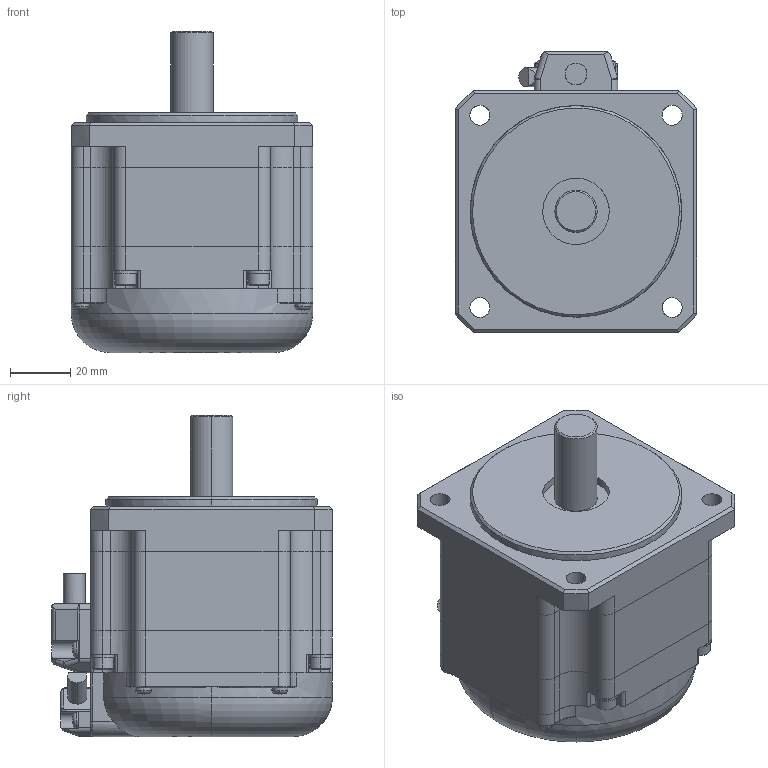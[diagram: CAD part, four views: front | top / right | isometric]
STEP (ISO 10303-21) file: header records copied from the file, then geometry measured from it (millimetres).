
FILE_DESCRIPTION (( 'STEP AP203' ), '1' );
FILE_NAME ('TS4612.STEP', '2010-08-06T14:22:12', ( 'render' ), ( '' ), 'SwSTEP 2.0', 'SolidWorks 2009', '' );
FILE_SCHEMA (( 'CONFIG_CONTROL_DESIGN' ));
Length unit declared in the file: millimetre
Products named in the file (1): TS4612
Bounding box: 80 x 93 x 106.3 mm (x, y, z)
Volume: 442245.3 mm3; surface area: 72411.3 mm2
Topology: 4 solids, 4 shells, 632 faces, 1582 edges, 970 vertices
Faces by surface type: plane 307, cylinder 217, cone 32, torus 29, sphere 28, bspline 19
Entity records: 22085 total; most frequent: CARTESIAN_POINT 8193, ORIENTED_EDGE 3146, DIRECTION 2423, EDGE_CURVE 1573, VERTEX_POINT 970, AXIS2_PLACEMENT_3D 862, LINE 699, VECTOR 699
